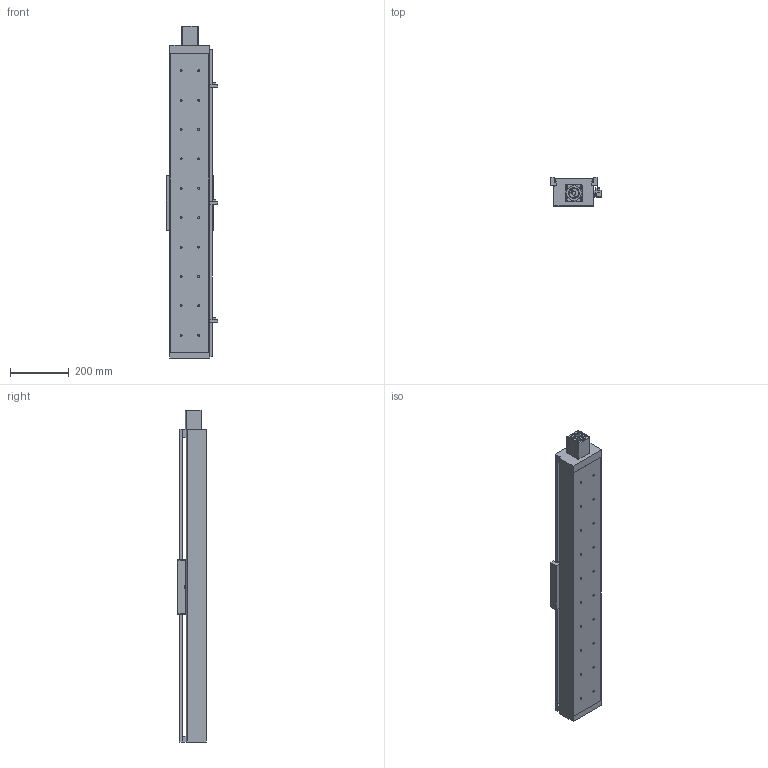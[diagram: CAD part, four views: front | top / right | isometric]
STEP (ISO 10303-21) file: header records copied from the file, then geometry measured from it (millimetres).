
FILE_DESCRIPTION((''),'2;1');
FILE_NAME('E:\libraries\UIA actuator library 2009\standard actuator\UIA136 ball screw 25\UIA136R15NDC-_ _ _-R25_ _, stp file 27Apr16\UIA136R15NDC-800-R25_ _-M60-P13-C10-S.stp','2016-04-28T16:56:29',('h029'),(''),'Autodesk Inventor 11','Autodesk Inventor 11','');
FILE_SCHEMA(('AUTOMOTIVE_DESIGN { 1 0 10303 214 1 1 1 1 }'));
Length unit declared in the file: millimetre
Products named in the file (10): UIA136R15NDC-800; UIA136R15NDC-body; motor mount F60; SOH-32C; SOH-32C-3; SOH-32C-1; SOH-32C-2; Carriage; Sensor Switch; sensor rail
Assembly tree (9 placements, depth 3):
  UIA136R15NDC-800
    UIA136R15NDC-body
    motor mount F60
    SOH-32C
      SOH-32C-3
      SOH-32C-1
      SOH-32C-2
    Carriage
    Sensor Switch
    sensor rail
Bounding box: 174.5 x 98 x 1130 mm (x, y, z)
Volume: 4304894.7 mm3; surface area: 1183327.5 mm2
Topology: 8 solids, 8 shells, 520 faces, 1367 edges, 894 vertices
Faces by surface type: plane 324, bspline 146, cylinder 46, cone 4
Full cylindrical faces by diameter (mm): 2.459 x2, 3.242 x2, 4.5 x2, 7 x4, 7.5 x2, 14 x3, 17 x1, 32 x3, 37 x1, 50.3 x1, 50.5 x1
Entity records: 16980 total; most frequent: CARTESIAN_POINT 4916, ORIENTED_EDGE 2328, DIRECTION 2282, EDGE_CURVE 1164, VERTEX_POINT 830, VECTOR 816, LINE 816, EDGE_LOOP 784
